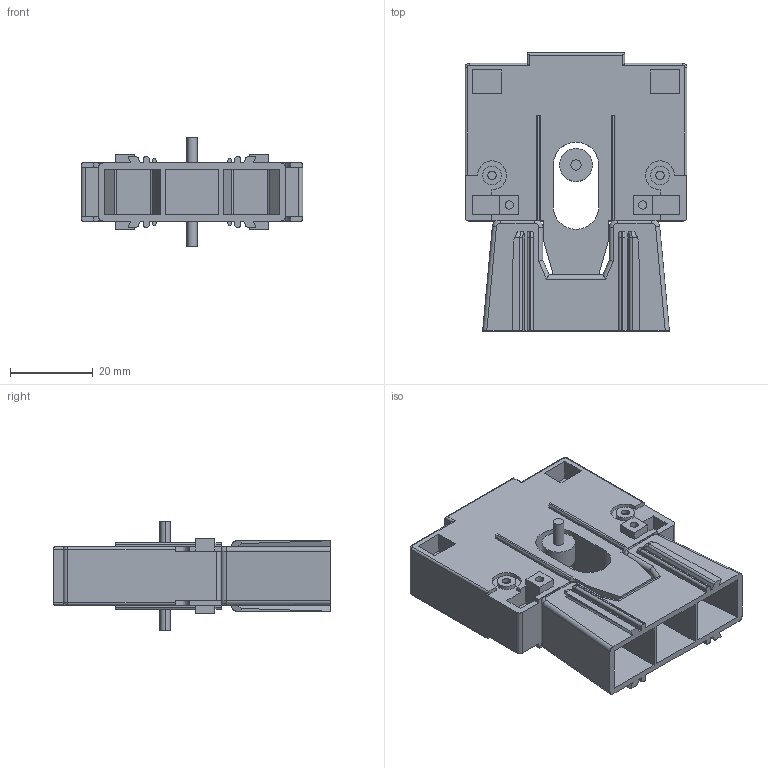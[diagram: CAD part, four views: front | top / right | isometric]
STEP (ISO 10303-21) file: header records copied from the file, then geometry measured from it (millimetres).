
FILE_DESCRIPTION((''),'2;1');
FILE_NAME('FJ1-L_SW0001','2026-06-02T13:53:08',('wangchen1'),(''),'CREO PARAMETRIC BY PTC INC, 2020354','CREO PARAMETRIC BY PTC INC, 2020354','');
FILE_SCHEMA(('CONFIG_CONTROL_DESIGN'));
Length unit declared in the file: millimetre
Products named in the file (1): FJ1-L_SW0001
Bounding box: 53.5 x 67 x 26.4 mm (x, y, z)
Volume: 33610.3 mm3; surface area: 16038.8 mm2
Topology: 3 solids, 3 shells, 326 faces, 842 edges, 546 vertices
Faces by surface type: plane 200, cylinder 102, bspline 16, torus 8
Entity records: 10651 total; most frequent: CARTESIAN_POINT 2615, ORIENTED_EDGE 1684, DIRECTION 1616, EDGE_CURVE 842, VECTOR 600, LINE 600, VERTEX_POINT 546, AXIS2_PLACEMENT_3D 508
